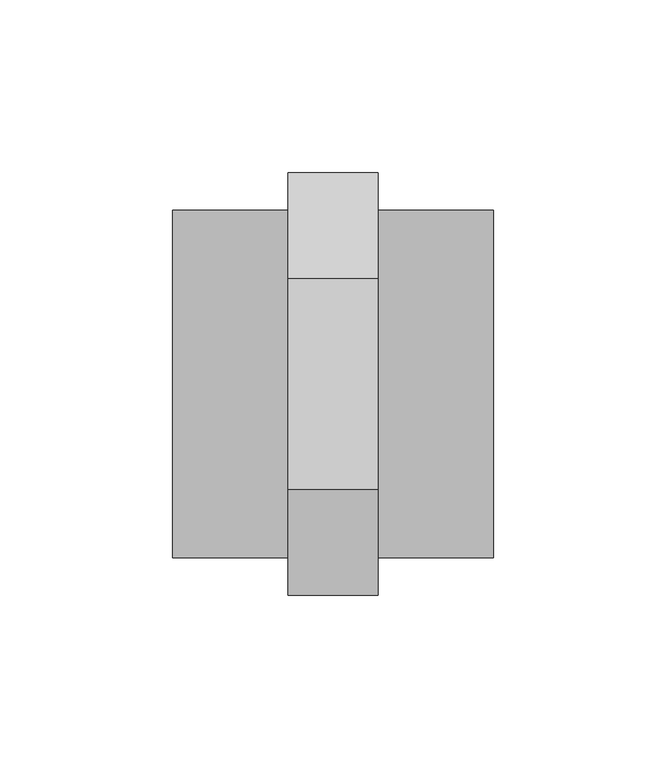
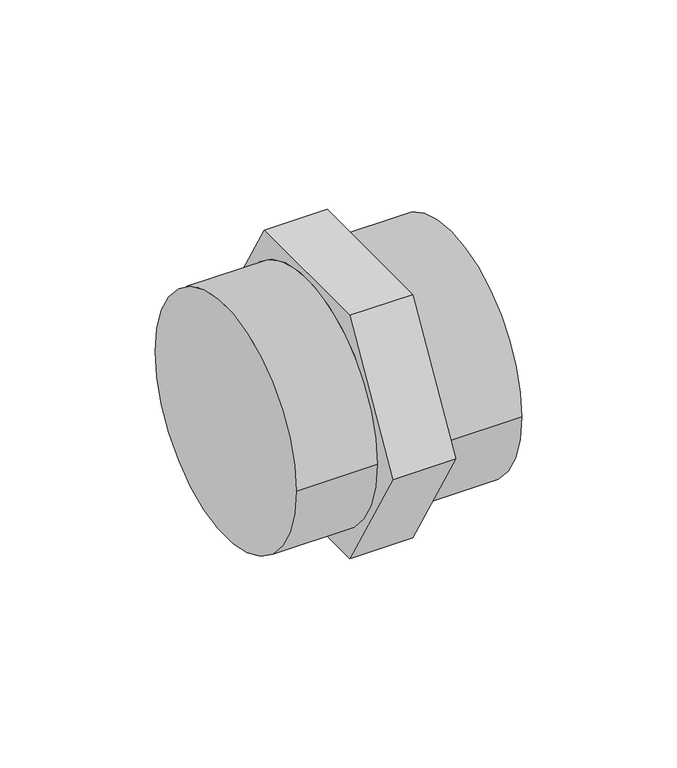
"""IFC4 building model written with IfcOpenShell, lengths in millimetres: pipe fitting geometry, 01011005 : Uniao Simples."""

import ifcopenshell
import ifcopenshell.guid

model = None  # the IFC model being written
_history = None  # IfcOwnerHistory: only IFC2X3 demands one
_inside = {}  # id of a spatial element -> (the spatial element, [elements in it])
_under = {}  # id of a project, library or spatial element -> (it, [spatial elements below it])
_declared = {}  # id of a project -> (the project, [libraries it declares])
_typed = {}  # id of a type object -> (the type object, [elements of that type])
_made_of = {}  # id of a material, layer set ... -> (it, [elements and type objects made of it])


def new_model(schema):
    """Start an empty IFC model of exactly this schema.

    Asked for "IFC4X3", IfcOpenShell would pick the latest addendum, in which some entities
    have other attributes; the version numbers below select the first issue.
    IFC2X3 requires an IfcOwnerHistory on every rooted entity: one is made here for all.
    """
    global model, _history
    if schema == "IFC4X3":
        model = ifcopenshell.file(schema_version=(4, 3, 0, 0))
    else:
        model = ifcopenshell.file(schema=schema)
    _inside.clear()
    _under.clear()
    _declared.clear()
    _typed.clear()
    _made_of.clear()
    _history = None
    if model.schema == "IFC2X3":
        org = make("IfcOrganization", Name="unknown")
        user = make(
            "IfcPersonAndOrganization",
            ThePerson=make("IfcPerson", FamilyName="unknown"),
            TheOrganization=org,
        )
        app = make(
            "IfcApplication",
            ApplicationDeveloper=org,
            Version="unknown",
            ApplicationFullName="unknown",
            ApplicationIdentifier="unknown",
        )
        _history = make(
            "IfcOwnerHistory",
            OwningUser=user,
            OwningApplication=app,
            ChangeAction="ADDED",
            CreationDate=0,
        )
    return model


def make(cls, **values):
    """One entity of the class cls with the attributes given. An attribute that is None is left unset."""
    return model.create_entity(
        cls, **{name: value for name, value in values.items() if value is not None}
    )


def rooted(cls, **values):
    """An entity with a GlobalId (a new one), such as an element, a storey or a relation."""
    return make(cls, GlobalId=ifcopenshell.guid.new(), OwnerHistory=_history, **values)


def si_unit(unit_type, name, prefix=None):
    """IfcSIUnit, for example si_unit("LENGTHUNIT", "METRE", prefix="MILLI")."""
    return make("IfcSIUnit", UnitType=unit_type, Prefix=prefix, Name=name)


def assignment(units):
    """IfcUnitAssignment: the units of a project."""
    return None if units is None else make("IfcUnitAssignment", Units=units)


def point(xyz):
    """IfcCartesianPoint."""
    return None if xyz is None else make("IfcCartesianPoint", Coordinates=xyz)


def direction(xyz):
    """IfcDirection."""
    return None if xyz is None else make("IfcDirection", DirectionRatios=xyz)


def frame(location, z_axis=None, x_axis=None):
    """IfcAxis2Placement3D, a coordinate frame: its origin and axes. An axis left out is left unset."""
    return make(
        "IfcAxis2Placement3D",
        Location=point(location),
        Axis=direction(z_axis),
        RefDirection=direction(x_axis),
    )


def origin():
    """The frame at (0, 0, 0) with its axes left unset."""
    return frame((0.0, 0.0, 0.0))


def place(relative_to, where):
    """IfcLocalPlacement: puts the frame where relative to a parent placement (None: the world)."""
    return make(
        "IfcLocalPlacement", PlacementRelTo=relative_to, RelativePlacement=where
    )


def context(
    kind, dimensions, precision=None, world=None, true_north=None, identifier=None
):
    """IfcGeometricRepresentationContext, for example the 3D "Model" context."""
    return make(
        "IfcGeometricRepresentationContext",
        ContextIdentifier=identifier,
        ContextType=kind,
        CoordinateSpaceDimension=dimensions,
        Precision=precision,
        WorldCoordinateSystem=world,
        TrueNorth=true_north,
    )


def project(units=None, contexts=None):
    """IfcProject with its units and contexts."""
    return rooted(
        "IfcProject",
        Name="project",
        RepresentationContexts=contexts,
        UnitsInContext=assignment(units),
    )


def spatial(cls, under=None, at=None, **own):
    """A site, building, storey or space (cls), placed at a placement, below another one or the project."""
    s = rooted(cls, ObjectPlacement=at, **own)
    if under is not None:
        _under.setdefault(under.id(), (under, []))[1].append(s)
    return s


def circle_curve(where, radius):
    """IfcCircle in the frame where."""
    return make("IfcCircle", Position=where, Radius=radius)


def shape(context_of_items, identifier, shape_type, items):
    """IfcShapeRepresentation: the items that make up one representation, for example the "Body"."""
    return make(
        "IfcShapeRepresentation",
        ContextOfItems=context_of_items,
        RepresentationIdentifier=identifier,
        RepresentationType=shape_type,
        Items=items,
    )


def source(mapping_origin, context_of_items, identifier, shape_type, items):
    """IfcRepresentationMap: a shape defined once, which mapped items show again and again."""
    return make(
        "IfcRepresentationMap",
        MappingOrigin=mapping_origin,
        MappedRepresentation=shape(context_of_items, identifier, shape_type, items),
    )


def transform(
    local_origin,
    x_axis=None,
    y_axis=None,
    z_axis=None,
    scale=None,
    scale2=None,
    scale3=None,
    uniform=True,
):
    """IfcCartesianTransformationOperator3D, or its non-uniform kind. x_axis, y_axis, z_axis: its Axis1, 2, 3."""
    if uniform:
        return make(
            "IfcCartesianTransformationOperator3D",
            Axis1=direction(x_axis),
            Axis2=direction(y_axis),
            LocalOrigin=point(local_origin),
            Scale=scale,
            Axis3=direction(z_axis),
        )
    return make(
        "IfcCartesianTransformationOperator3DnonUniform",
        Axis1=direction(x_axis),
        Axis2=direction(y_axis),
        LocalOrigin=point(local_origin),
        Scale=scale,
        Axis3=direction(z_axis),
        Scale2=scale2,
        Scale3=scale3,
    )


def mapped(mapping_source, mapping_target):
    """IfcMappedItem: shows the shape of a source again, moved by a transform."""
    return make(
        "IfcMappedItem", MappingSource=mapping_source, MappingTarget=mapping_target
    )


def made_of(thing, what):
    """Note that an element or type object is made of a material, layer set ...; save() writes the relation."""
    if what is not None:
        _made_of.setdefault(what.id(), (what, []))[1].append(thing)
    return thing


def element(
    cls,
    number,
    at=None,
    inside=None,
    cuts=None,
    type_object=None,
    material=None,
    context=None,
    identifier="Body",
    shape_type=None,
    held_by="IfcProductDefinitionShape",
    body=None,
    shapes=None,
    **own,
):
    """One element of the class cls, such as IfcWall. Its Tag is "e" and its number.

    at: its placement. inside: the storey or other place that contains it. cuts: it is an
    opening in that element (IfcRelVoidsElement). A single representation is given by context,
    identifier, shape_type and body (its items); several are given by shapes. held_by: the class
    of the entity that holds the representations. save() writes the other relations.
    """
    e = rooted(cls, Tag="e%d" % number, ObjectPlacement=at, **own)
    if body is not None:
        shapes = [shape(context, identifier, shape_type, body)]
    if shapes is not None:
        e.Representation = make(held_by, Representations=shapes)
    if inside is not None:
        _inside.setdefault(inside.id(), (inside, []))[1].append(e)
    if cuts is not None:
        rooted(
            "IfcRelVoidsElement", RelatingBuildingElement=cuts, RelatedOpeningElement=e
        )
    if type_object is not None:
        _typed.setdefault(type_object.id(), (type_object, []))[1].append(e)
    return made_of(e, material)


def aggregate(whole, parts):
    """IfcRelAggregates: a whole, such as a stair, and the parts it consists of."""
    return rooted("IfcRelAggregates", RelatingObject=whole, RelatedObjects=parts)


def save(model, path):
    """Write the relations noted so far, then the file.

    IfcRelAggregates (storeys below a building ...), IfcRelContainedInSpatialStructure (elements
    in a storey), IfcRelDefinesByType, IfcRelAssociatesMaterial and IfcRelDeclares: one each for
    every whole, place, type object, material and project.
    """
    for whole, parts in _under.values():
        aggregate(whole, parts)
    for where, things in _inside.values():
        rooted(
            "IfcRelContainedInSpatialStructure",
            RelatedElements=things,
            RelatingStructure=where,
        )
    for kind, things in _typed.values():
        rooted("IfcRelDefinesByType", RelatedObjects=things, RelatingType=kind)
    for what, things in _made_of.values():
        rooted("IfcRelAssociatesMaterial", RelatedObjects=things, RelatingMaterial=what)
    for by, libraries in _declared.values():
        rooted("IfcRelDeclares", RelatingContext=by, RelatedDefinitions=libraries)
    model.write(path)


def plane_surface(at):
    """IfcPlane: the flat surface through the origin of the frame at, square to its z axis."""
    return make("IfcPlane", Position=at)


def cylinder_surface(at, radius):
    """IfcCylindricalSurface: all points at the distance radius from the z axis of the frame at."""
    return make("IfcCylindricalSurface", Position=at, Radius=radius)


def advanced_brep(points, edges, surfaces, faces):
    """IfcAdvancedBrep: a solid bounded by faces that lie on surfaces and meet in shared edges.

    An edge is (start, end): straight between two places in points (the first is 0);
    or (start, end, curve); or (start, end, curve, False) where it runs against its curve.
    A face is (place in surfaces, loops), or (place, loops, False) where it looks against
    its surface's normal. A loop lists edges by number (the first is 1), with a minus sign
    where the edge is run from its end to its start. The first loop is the outer one.
    """
    corners = [point(p) for p in points]
    vertices = [make("IfcVertexPoint", VertexGeometry=c) for c in corners]
    made = []
    for start, end, *more in edges:
        made.append(
            make(
                "IfcEdgeCurve",
                EdgeStart=vertices[start],
                EdgeEnd=vertices[end],
                EdgeGeometry=more[0] if more else make("IfcPolyline", Points=[corners[start], corners[end]]),
                SameSense=more[1] if len(more) > 1 else True,
            )
        )
    hull = []
    for where, loops, *sense in faces:
        bounds = []
        for j, loop in enumerate(loops):
            ring = [make("IfcOrientedEdge", EdgeElement=made[abs(k) - 1], Orientation=k > 0) for k in loop]
            bounds.append(
                make(
                    "IfcFaceOuterBound" if j == 0 else "IfcFaceBound",
                    Bound=make("IfcEdgeLoop", EdgeList=ring),
                    Orientation=True,
                )
            )
        hull.append(make("IfcAdvancedFace", Bounds=bounds, FaceSurface=surfaces[where], SameSense=sense[0] if sense else True))
    return make("IfcAdvancedBrep", Outer=make("IfcClosedShell", CfsFaces=hull))


def pipe_fitting_ed66a6a0(model_context):
    return source(origin(), model_context, "Body", "AdvancedBrep", [
        advanced_brep(
        [(13.0, -30.5995643, 53.0), (13.0, -61.1991285, 0.0), (13.0, -30.5995643, -53.0), (13.0, 30.5995643, -53.0), (13.0, 61.1991285, 0.0), (13.0, 30.5995643, 53.0), (13.0, -50.35, 0.0), (13.0, 50.35, 0.0), (-13.0, -30.5995643, 53.0), (-13.0, 30.5995643, 53.0), (-13.0, 61.1991285, 0.0), (-13.0, 30.5995643, -53.0), (-13.0, -30.5995643, -53.0), (-13.0, -61.1991285, 0.0), (-13.0, 50.35, 0.0), (-13.0, -50.35, 0.0), (-46.5, -50.35, 0.0), (-46.5, 50.35, 0.0), (46.5, -50.35, 0.0), (46.5, 50.35, 0.0)],
        [
            (0, 1),
            (1, 2),
            (2, 3),
            (3, 4),
            (4, 5),
            (5, 0),
            (6, 7, circle_curve(frame((13.0, 0.0, 0.0), z_axis=(-1.0, 0.0, 0.0), x_axis=(0.0, 1.0, 0.0)), 50.35)),
            (7, 6, circle_curve(frame((13.0, 0.0, 0.0), z_axis=(-1.0, 0.0, 0.0), x_axis=(0.0, 1.0, 0.0)), 50.35)),
            (8, 9),
            (9, 10),
            (10, 11),
            (11, 12),
            (12, 13),
            (13, 8),
            (14, 15, circle_curve(frame((-13.0, 0.0, 0.0), z_axis=(1.0, 0.0, 0.0), x_axis=(0.0, 1.0, 0.0)), 50.35)),
            (15, 14, circle_curve(frame((-13.0, 0.0, 0.0), z_axis=(1.0, 0.0, 0.0), x_axis=(0.0, 1.0, 0.0)), 50.35)),
            (0, 8),
            (13, 1),
            (12, 2),
            (11, 3),
            (10, 4),
            (9, 5),
            (16, 17, circle_curve(frame((-46.5, 0.0, 0.0), z_axis=(-1.0, 0.0, 0.0), x_axis=(0.0, 1.0, 0.0)), 50.35)),
            (17, 16, circle_curve(frame((-46.5, 0.0, 0.0), z_axis=(-1.0, 0.0, 0.0), x_axis=(0.0, 1.0, 0.0)), 50.35)),
            (18, 19, circle_curve(frame((46.5, 0.0, 0.0), z_axis=(1.0, 0.0, 0.0), x_axis=(0.0, 1.0, 0.0)), 50.35)),
            (19, 18, circle_curve(frame((46.5, 0.0, 0.0), z_axis=(1.0, 0.0, 0.0), x_axis=(0.0, 1.0, 0.0)), 50.35)),
            (16, 15),
            (14, 17),
            (19, 7),
            (6, 18),
        ],
        [
            plane_surface(frame((13.0, -30.5995643, 53.0), z_axis=(1.0, 0.0, 0.0), x_axis=(0.0, -0.5000000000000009, -0.8660254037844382))),
            plane_surface(frame((-13.0, -30.5995643, 53.0), z_axis=(-1.0, 0.0, 0.0), x_axis=(0.0, 0.5000000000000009, 0.8660254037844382))),
            plane_surface(frame((13.0, -30.5995643, 53.0), z_axis=(0.0, -0.8660254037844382, 0.5000000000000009), x_axis=(-1.0, 0.0, 0.0))),
            plane_surface(frame((13.0, -61.1991285, 0.0), z_axis=(0.0, -0.866025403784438, -0.500000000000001), x_axis=(-1.0, 0.0, 0.0))),
            plane_surface(frame((13.0, -30.5995643, -53.0), z_axis=(0.0, 0.0, -1.0), x_axis=(-1.0, 0.0, 0.0))),
            plane_surface(frame((13.0, 30.5995643, -53.0), z_axis=(0.0, 0.8660254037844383, -0.5000000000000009), x_axis=(-1.0, 0.0, 0.0))),
            plane_surface(frame((13.0, 61.1991285, 0.0), z_axis=(0.0, 0.8660254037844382, 0.500000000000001), x_axis=(-1.0, 0.0, 0.0))),
            plane_surface(frame((13.0, 30.5995643, 53.0), z_axis=(0.0, 0.0, 1.0), x_axis=(-1.0, 0.0, 0.0))),
            plane_surface(frame((-46.5, 0.0, 0.0), z_axis=(-1.0, 0.0, 0.0), x_axis=(0.0, 0.0, 1.0))),
            plane_surface(frame((46.5, 0.0, 0.0), z_axis=(1.0, 0.0, 0.0), x_axis=(0.0, 0.0, 1.0))),
            cylinder_surface(frame((-46.5, 0.0, 0.0), z_axis=(-1.0, 0.0, 0.0), x_axis=(0.0, 1.0, 0.0)), 50.35),
        ],
        [
            (0, [[1, 2, 3, 4, 5, 6], [7, 8]]),
            (1, [[9, 10, 11, 12, 13, 14], [15, 16]]),
            (2, [[-1, 17, -14, 18]]),
            (3, [[-2, -18, -13, 19]]),
            (4, [[-3, -19, -12, 20]]),
            (5, [[-4, -20, -11, 21]]),
            (6, [[-5, -21, -10, 22]]),
            (7, [[-6, -22, -9, -17]]),
            (8, [[23, 24]]),
            (9, [[25, 26]]),
            (10, [[-23, 27, -15, 28]]),
            (10, [[-26, 29, -7, 30]]),
            (10, [[-24, -28, -16, -27]]),
            (10, [[-25, -30, -8, -29]]),
        ],
    ),
    ])


if __name__ == "__main__":
    model = new_model("IFC4")
    model_context = context("Model", 3, world=origin())
    ifc_project = project(units=[si_unit("LENGTHUNIT", "METRE", prefix="MILLI")], contexts=[model_context])
    site = spatial("IfcSite", under=ifc_project)
    building = spatial("IfcBuilding", under=site)
    placement = place(None, origin())
    pipe_fitting_shape = pipe_fitting_ed66a6a0(model_context)
    element("IfcPipeFitting", 1, ObjectType="01011005 : Uniao Simples", at=placement, inside=building, context=model_context, shape_type="MappedRepresentation", body=[
        mapped(pipe_fitting_shape, transform((0.0, 0.0, 0.0), x_axis=(1.0, 0.0, 0.0), y_axis=(0.0, 1.0, 0.0), z_axis=(0.0, 0.0, 1.0))),
    ])
    save(model, "model.ifc")
